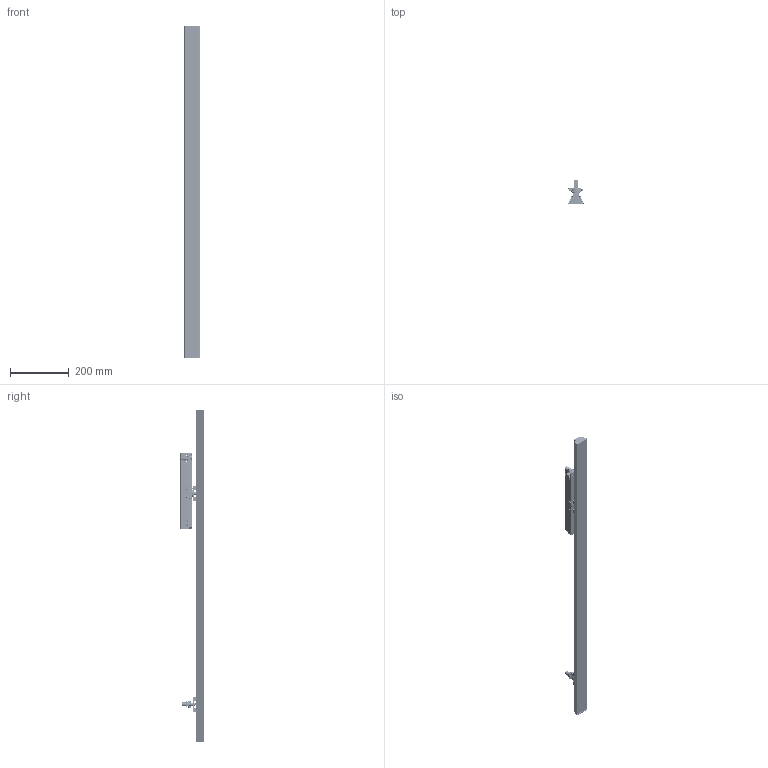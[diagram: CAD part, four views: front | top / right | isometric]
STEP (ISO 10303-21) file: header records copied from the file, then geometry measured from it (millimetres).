
FILE_DESCRIPTION(/* description */ (''),/* implementation_level */ '2;1');
FILE_NAME(/* name */ 'C:\Users\quotes\OneDrive - M LIGHT PTY LTD\Documents\Inventor\Projects\Mlight Projects Team\ENGINEERING - CAD\Favors\Akhila\Track Step File\Zelle 4B\mLight Zelle 4B 1130mm Track Module_Simplify_1.stp',/* time_stamp */ '2024-06-03T17:05:01+10:00',/* author */ ('quotes'),/* organization */ (''),/* preprocessor_version */ 'ST-DEVELOPER v18.1',/* originating_system */ 'Autodesk Inventor 2022',/* authorisation */ '');
FILE_SCHEMA (('AUTOMOTIVE_DESIGN { 1 0 10303 214 3 1 1 }'));
Products named in the file (1): mLight Zelle 4B 1130mm Track Module_Simplify_1
Bounding box: 52.2 x 82.9 x 1130.1 mm (x, y, z)
Volume: 421768 mm3; surface area: 455046.4 mm2
Topology: 4 solids, 8 shells, 14527 faces, 41196 edges, 26678 vertices
Faces by surface type: plane 9606, cylinder 2902, bspline 1135, cone 555, torus 221, sphere 108
Full cylindrical faces by diameter (mm): 0.6 x1, 1.4 x1, 1.5 x1, 3 x8, 3.2 x2, 3.3 x4, 3.4 x4, 4 x6, 4.5 x4, 5.5 x4, 5.6 x2, 6 x4, 6.4 x3, 6.8 x1, 8.8 x1, 9.6 x1, 10.5 x1, 12 x1, 12.4 x1, 12.7 x1, 13 x1, 13.5 x1, 13.9 x1, 18.8 x1, 20 x1, 24.8 x1, 25 x1
Entity records: 693270 total; most frequent: CARTESIAN_POINT 304516, ORIENTED_EDGE 82338, DIRECTION 72233, EDGE_CURVE 41183, LINE 30661, VECTOR 30661, VERTEX_POINT 26700, AXIS2_PLACEMENT_3D 20786
